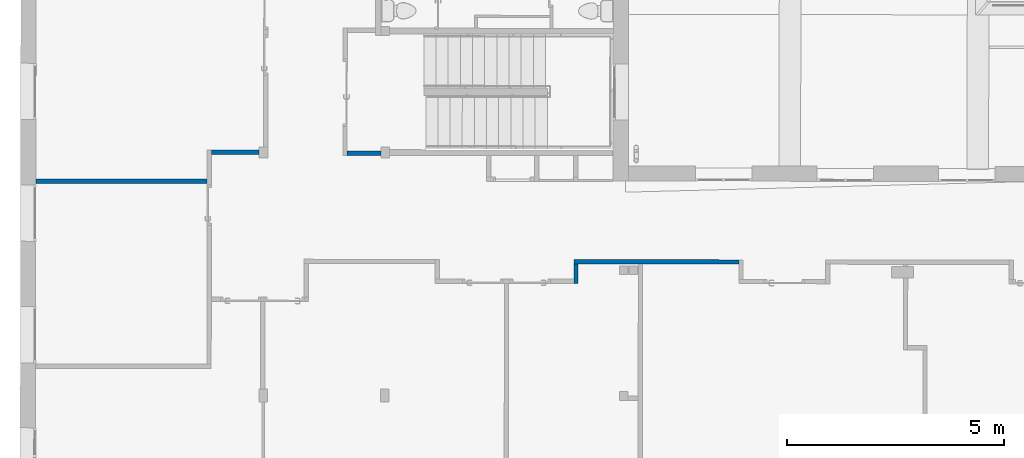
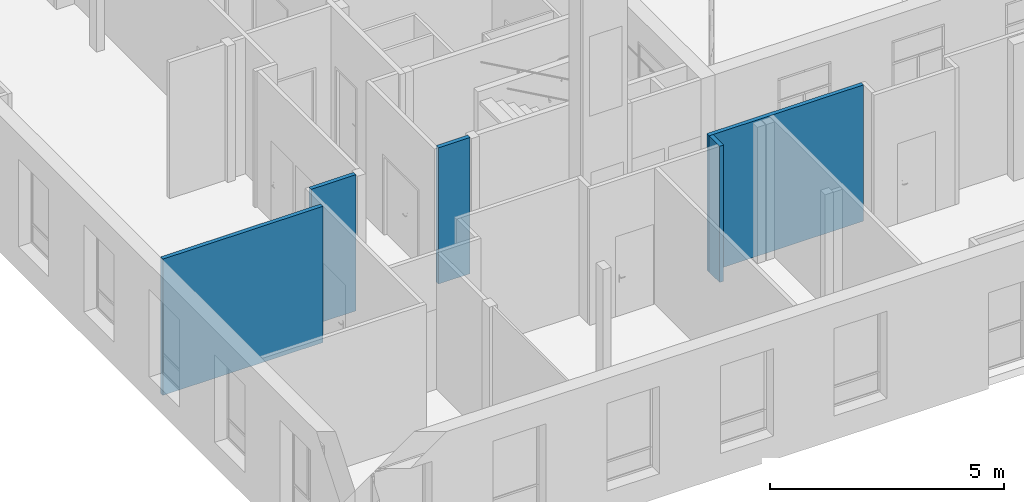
# One storey, part 47 of 101: 5 walls.
"""IFC2X3 building model written with IfcOpenShell, lengths in metres."""

import ifcopenshell
import ifcopenshell.guid

model = None  # the IFC model being written
_history = None  # IfcOwnerHistory: only IFC2X3 demands one
_inside = {}  # id of a spatial element -> (the spatial element, [elements in it])
_under = {}  # id of a project, library or spatial element -> (it, [spatial elements below it])
_declared = {}  # id of a project -> (the project, [libraries it declares])
_typed = {}  # id of a type object -> (the type object, [elements of that type])
_made_of = {}  # id of a material, layer set ... -> (it, [elements and type objects made of it])


def new_model(schema):
    """Start an empty IFC model of exactly this schema.

    Asked for "IFC4X3", IfcOpenShell would pick the latest addendum, in which some entities
    have other attributes; the version numbers below select the first issue.
    IFC2X3 requires an IfcOwnerHistory on every rooted entity: one is made here for all.
    """
    global model, _history
    if schema == "IFC4X3":
        model = ifcopenshell.file(schema_version=(4, 3, 0, 0))
    else:
        model = ifcopenshell.file(schema=schema)
    _inside.clear()
    _under.clear()
    _declared.clear()
    _typed.clear()
    _made_of.clear()
    _history = None
    if model.schema == "IFC2X3":
        org = make("IfcOrganization", Name="unknown")
        user = make(
            "IfcPersonAndOrganization",
            ThePerson=make("IfcPerson", FamilyName="unknown"),
            TheOrganization=org,
        )
        app = make(
            "IfcApplication",
            ApplicationDeveloper=org,
            Version="unknown",
            ApplicationFullName="unknown",
            ApplicationIdentifier="unknown",
        )
        _history = make(
            "IfcOwnerHistory",
            OwningUser=user,
            OwningApplication=app,
            ChangeAction="ADDED",
            CreationDate=0,
        )
    return model


def make(cls, **values):
    """One entity of the class cls with the attributes given. An attribute that is None is left unset."""
    return model.create_entity(
        cls, **{name: value for name, value in values.items() if value is not None}
    )


def entity(cls, *values):
    """Any entity or typed value of the class cls, its attributes in the order of the schema. None: left unset."""
    e = model.create_entity(cls)
    for i, value in enumerate(values):
        if value is not None:
            e[i] = value
    return e


def rooted(cls, **values):
    """An entity with a GlobalId (a new one), such as an element, a storey or a relation."""
    return make(cls, GlobalId=ifcopenshell.guid.new(), OwnerHistory=_history, **values)


def si_unit(unit_type, name, prefix=None):
    """IfcSIUnit, for example si_unit("LENGTHUNIT", "METRE", prefix="MILLI")."""
    return make("IfcSIUnit", UnitType=unit_type, Prefix=prefix, Name=name)


def converted_unit(unit_type, name, factor, base, dimensions=None, offset=None):
    """IfcConversionBasedUnit, such as the inch: factor (a typed value) times the base unit."""
    return make(
        "IfcConversionBasedUnit"
        if offset is None
        else "IfcConversionBasedUnitWithOffset",
        ConversionOffset=offset,
        Dimensions=None
        if dimensions is None
        else entity("IfcDimensionalExponents", *dimensions),
        UnitType=unit_type,
        Name=name,
        ConversionFactor=make(
            "IfcMeasureWithUnit", ValueComponent=factor, UnitComponent=base
        ),
    )


def derived_unit(unit_type, elements):
    """IfcDerivedUnit: a product of units, each with its exponent."""
    return make(
        "IfcDerivedUnit",
        Elements=[
            make("IfcDerivedUnitElement", Unit=unit, Exponent=power)
            for unit, power in elements
        ],
        UnitType=unit_type,
    )


def assignment(units):
    """IfcUnitAssignment: the units of a project."""
    return None if units is None else make("IfcUnitAssignment", Units=units)


def point(xyz):
    """IfcCartesianPoint."""
    return None if xyz is None else make("IfcCartesianPoint", Coordinates=xyz)


def direction(xyz):
    """IfcDirection."""
    return None if xyz is None else make("IfcDirection", DirectionRatios=xyz)


def frame(location, z_axis=None, x_axis=None):
    """IfcAxis2Placement3D, a coordinate frame: its origin and axes. An axis left out is left unset."""
    return make(
        "IfcAxis2Placement3D",
        Location=point(location),
        Axis=direction(z_axis),
        RefDirection=direction(x_axis),
    )


def frame_2d(location, x_axis=None):
    """IfcAxis2Placement2D, a coordinate frame in the plane: its origin and x axis."""
    return make(
        "IfcAxis2Placement2D", Location=point(location), RefDirection=direction(x_axis)
    )


def origin():
    """The frame at (0, 0, 0) with its axes left unset."""
    return frame((0.0, 0.0, 0.0))


def place(relative_to, where):
    """IfcLocalPlacement: puts the frame where relative to a parent placement (None: the world)."""
    return make(
        "IfcLocalPlacement", PlacementRelTo=relative_to, RelativePlacement=where
    )


def context(
    kind, dimensions, precision=None, world=None, true_north=None, identifier=None
):
    """IfcGeometricRepresentationContext, for example the 3D "Model" context."""
    return make(
        "IfcGeometricRepresentationContext",
        ContextIdentifier=identifier,
        ContextType=kind,
        CoordinateSpaceDimension=dimensions,
        Precision=precision,
        WorldCoordinateSystem=world,
        TrueNorth=true_north,
    )


def subcontext(parent, identifier, kind, view, scale=None):
    """IfcGeometricRepresentationSubContext, for example "Body" below "Model"."""
    return make(
        "IfcGeometricRepresentationSubContext",
        ContextIdentifier=identifier,
        ContextType=kind,
        ParentContext=parent,
        TargetScale=scale,
        TargetView=view,
    )


def project(units=None, contexts=None):
    """IfcProject with its units and contexts."""
    return rooted(
        "IfcProject",
        Name="project",
        RepresentationContexts=contexts,
        UnitsInContext=assignment(units),
    )


def spatial(cls, under=None, at=None, **own):
    """A site, building, storey or space (cls), placed at a placement, below another one or the project."""
    s = rooted(cls, ObjectPlacement=at, **own)
    if under is not None:
        _under.setdefault(under.id(), (under, []))[1].append(s)
    return s


def profile(cls, at=None, kind="AREA", **sizes):
    """A parametric profile (cls). Its sizes go by their IFC names, for example OverallWidth=200.0."""
    return make(cls, ProfileType=kind, Position=at, **sizes)


def rectangle(**sizes):
    """IfcRectangleProfileDef."""
    return profile("IfcRectangleProfileDef", **sizes)


def extrude(swept, where, along, depth):
    """IfcExtrudedAreaSolid: the profile swept, set in the frame where, extruded along a direction by depth."""
    return make(
        "IfcExtrudedAreaSolid",
        SweptArea=swept,
        Position=where,
        ExtrudedDirection=direction(along),
        Depth=depth,
    )


def shape(context_of_items, identifier, shape_type, items):
    """IfcShapeRepresentation: the items that make up one representation, for example the "Body"."""
    return make(
        "IfcShapeRepresentation",
        ContextOfItems=context_of_items,
        RepresentationIdentifier=identifier,
        RepresentationType=shape_type,
        Items=items,
    )


def material(Name=None, Category=None):
    """IfcMaterial."""
    return make("IfcMaterial", Name=Name, Category=Category)


def layer(
    of_material, thickness, ventilated=None, Name=None, Category=None, Priority=None
):
    """IfcMaterialLayer: one layer of a wall or slab, of a material (None: an air gap)."""
    return make(
        "IfcMaterialLayer",
        Material=of_material,
        LayerThickness=thickness,
        IsVentilated=ventilated,
        Name=Name,
        Category=Category,
        Priority=Priority,
    )


def layer_set(layers, Name=None):
    """IfcMaterialLayerSet."""
    return make("IfcMaterialLayerSet", MaterialLayers=layers, LayerSetName=Name)


def layer_usage(for_layer_set, set_direction, sense, offset, extent=None):
    """IfcMaterialLayerSetUsage: how a layer set lies in its element."""
    return make(
        "IfcMaterialLayerSetUsage",
        ForLayerSet=for_layer_set,
        LayerSetDirection=set_direction,
        DirectionSense=sense,
        OffsetFromReferenceLine=offset,
        ReferenceExtent=extent,
    )


def made_of(thing, what):
    """Note that an element or type object is made of a material, layer set ...; save() writes the relation."""
    if what is not None:
        _made_of.setdefault(what.id(), (what, []))[1].append(thing)
    return thing


def type_object(cls, material=None, **own):
    """A type object (cls), such as IfcWallType, which elements share."""
    return made_of(rooted(cls, **own), material)


def element(
    cls,
    number,
    at=None,
    inside=None,
    cuts=None,
    type_object=None,
    material=None,
    context=None,
    identifier="Body",
    shape_type=None,
    held_by="IfcProductDefinitionShape",
    body=None,
    shapes=None,
    **own,
):
    """One element of the class cls, such as IfcWall. Its Tag is "e" and its number.

    at: its placement. inside: the storey or other place that contains it. cuts: it is an
    opening in that element (IfcRelVoidsElement). A single representation is given by context,
    identifier, shape_type and body (its items); several are given by shapes. held_by: the class
    of the entity that holds the representations. save() writes the other relations.
    """
    e = rooted(cls, Tag="e%d" % number, ObjectPlacement=at, **own)
    if body is not None:
        shapes = [shape(context, identifier, shape_type, body)]
    if shapes is not None:
        e.Representation = make(held_by, Representations=shapes)
    if inside is not None:
        _inside.setdefault(inside.id(), (inside, []))[1].append(e)
    if cuts is not None:
        rooted(
            "IfcRelVoidsElement", RelatingBuildingElement=cuts, RelatedOpeningElement=e
        )
    if type_object is not None:
        _typed.setdefault(type_object.id(), (type_object, []))[1].append(e)
    return made_of(e, material)


def aggregate(whole, parts):
    """IfcRelAggregates: a whole, such as a stair, and the parts it consists of."""
    return rooted("IfcRelAggregates", RelatingObject=whole, RelatedObjects=parts)


def save(model, path):
    """Write the relations noted so far, then the file.

    IfcRelAggregates (storeys below a building ...), IfcRelContainedInSpatialStructure (elements
    in a storey), IfcRelDefinesByType, IfcRelAssociatesMaterial and IfcRelDeclares: one each for
    every whole, place, type object, material and project.
    """
    for whole, parts in _under.values():
        aggregate(whole, parts)
    for where, things in _inside.values():
        rooted(
            "IfcRelContainedInSpatialStructure",
            RelatedElements=things,
            RelatingStructure=where,
        )
    for kind, things in _typed.values():
        rooted("IfcRelDefinesByType", RelatedObjects=things, RelatingType=kind)
    for what, things in _made_of.values():
        rooted("IfcRelAssociatesMaterial", RelatedObjects=things, RelatingMaterial=what)
    for by, libraries in _declared.values():
        rooted("IfcRelDeclares", RelatingContext=by, RelatedDefinitions=libraries)
    model.write(path)


model = new_model("IFC2X3")

# Units and contexts
model_context = context("Model", 3, precision=1e-05, world=origin(), true_north=direction((6.123233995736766e-17, 1.0)))
body_context = subcontext(model_context, "Body", "Model", "MODEL_VIEW")
ifc_project = project(units=[si_unit("LENGTHUNIT", "METRE"), si_unit("AREAUNIT", "SQUARE_METRE"), converted_unit("PLANEANGLEUNIT", "DEGREE", entity("IfcPlaneAngleMeasure", 0.017453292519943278), si_unit("PLANEANGLEUNIT", "RADIAN"), dimensions=[0, 0, 0, 0, 0, 0, 0]), derived_unit("THERMALTRANSMITTANCEUNIT", [(si_unit("MASSUNIT", "GRAM", prefix="KILO"), 1), (si_unit("THERMODYNAMICTEMPERATUREUNIT", "KELVIN"), -1), (si_unit("TIMEUNIT", "SECOND"), -3)])], contexts=[model_context])

# Site, building, storey
site_placement = place(None, frame((1253.6752467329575, 2072.143113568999, 91.49999999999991), z_axis=(0.0, 0.0, 1.0), x_axis=(0.7237211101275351, 0.6900925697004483, 0.0)))
site = spatial("IfcSite", under=ifc_project, at=site_placement, Name="Surface", CompositionType="ELEMENT")
building_placement = place(site_placement, origin())
building = spatial("IfcBuilding", under=site, at=building_placement, CompositionType="ELEMENT")
storey_placement = place(building_placement, origin())
storey = spatial("IfcBuildingStorey", under=building, at=storey_placement, Name="0- Rdc", CompositionType="ELEMENT", Elevation=-5.764692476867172e-13)

# Walls
ifc_material = material(Name="OMD_Béton blanc")
ifc_layer = layer(ifc_material, 0.1)
ifc_layer_set = layer_set([ifc_layer], Name="Mur de base:MUR 10")
ifc_layer_usage_1 = layer_usage(ifc_layer_set, "AXIS2", "NEGATIVE", 0.05)
wall_type = type_object("IfcWallType", Name="Mur de base:MUR 10", PredefinedType="STANDARD", material=ifc_layer_set)
wall_1_placement = place(storey_placement, frame((157.64582328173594, 0.36472480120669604, 0.0), z_axis=(0.0, 0.0, 1.0), x_axis=(0.7228702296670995, -0.6909838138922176, 0.0)))
element("IfcWallStandardCase", 1, at=wall_1_placement, inside=storey, type_object=wall_type, material=ifc_layer_usage_1, Name="Mur de base:MUR 10", ObjectType="Mur de base:MUR 10", context=body_context, shape_type="SweptSolid", body=[
    extrude(rectangle(XDim=3.79999999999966, YDim=0.10000000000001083, at=frame_2d((1.89999999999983, -2.8102520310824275e-15), x_axis=(-1.0, 0.0))), origin(), (0.0, 0.0, 1.0), 3.5499999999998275),
])
ifc_layer_usage_2 = layer_usage(ifc_layer_set, "AXIS2", "NEGATIVE", 0.05)
wall_2_placement = place(storey_placement, frame((157.64741760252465, 0.29403209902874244, 0.0), z_axis=(0.0, 0.0, 1.0), x_axis=(-0.6909838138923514, -0.7228702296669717, 0.0)))
element("IfcWallStandardCase", 2, at=wall_2_placement, inside=storey, type_object=wall_type, material=ifc_layer_usage_2, Name="Mur de base:MUR 10", ObjectType="Mur de base:MUR 10", context=body_context, shape_type="SweptSolid", body=[
    extrude(rectangle(XDim=0.4499999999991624, YDim=0.10000000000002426, at=frame_2d((0.2249999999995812, 2.706168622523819e-16), x_axis=(-1.0, 0.0))), origin(), (0.0, 0.0, 1.0), 3.5499999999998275),
])
ifc_layer_usage_3 = layer_usage(ifc_layer_set, "AXIS2", "NEGATIVE", 0.05)
wall_3_placement = place(storey_placement, frame((152.8089800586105, 7.533619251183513, 0.0), z_axis=(0.0, 0.0, 1.0), x_axis=(-0.7228702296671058, 0.6909838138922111, 0.0)))
element("IfcWallStandardCase", 3, at=wall_3_placement, inside=storey, type_object=wall_type, material=ifc_layer_usage_3, Name="Mur de base:MUR 10", ObjectType="Mur de base:MUR 10", context=body_context, shape_type="SweptSolid", body=[
    extrude(rectangle(XDim=3.9400000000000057, YDim=0.10000000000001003, at=frame_2d((1.9700000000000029, 3.122502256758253e-16), x_axis=(-1.0, 0.0))), origin(), (0.0, 0.0, 1.0), 3.5499999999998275),
])
ifc_layer_usage_4 = layer_usage(ifc_layer_set, "AXIS2", "NEGATIVE", 0.05)
wall_4_placement = place(storey_placement, frame((153.34422623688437, 7.948843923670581, 0.0), z_axis=(0.0, 0.0, 1.0), x_axis=(0.7228702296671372, -0.6909838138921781, 0.0)))
element("IfcWallStandardCase", 4, at=wall_4_placement, inside=storey, type_object=wall_type, material=ifc_layer_usage_4, Name="Mur de base:MUR 10", ObjectType="Mur de base:MUR 10", context=body_context, shape_type="SweptSolid", body=[
    extrude(rectangle(XDim=1.099999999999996, YDim=0.09999999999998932, at=frame_2d((0.549999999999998, -5.412337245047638e-16), x_axis=(-1.0, 0.0))), origin(), (0.0, 0.0, 1.0), 3.5499999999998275),
])
ifc_layer_usage_5 = layer_usage(ifc_layer_set, "AXIS2", "NEGATIVE", 0.05)
wall_5_placement = place(storey_placement, frame((156.15305537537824, 5.243163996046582, 0.0), z_axis=(0.0, 0.0, 1.0), x_axis=(-0.7228702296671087, 0.6909838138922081, 0.0)))
element("IfcWallStandardCase", 5, at=wall_5_placement, inside=storey, type_object=wall_type, material=ifc_layer_usage_5, Name="Mur de base:MUR 10", ObjectType="Mur de base:MUR 10", context=body_context, shape_type="SweptSolid", body=[
    extrude(rectangle(XDim=0.7753433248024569, YDim=0.10000000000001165, at=frame_2d((0.38767166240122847, -3.191891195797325e-16), x_axis=(-1.0, 0.0))), origin(), (0.0, 0.0, 1.0), 3.5499999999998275),
])

save(model, "model.ifc")
